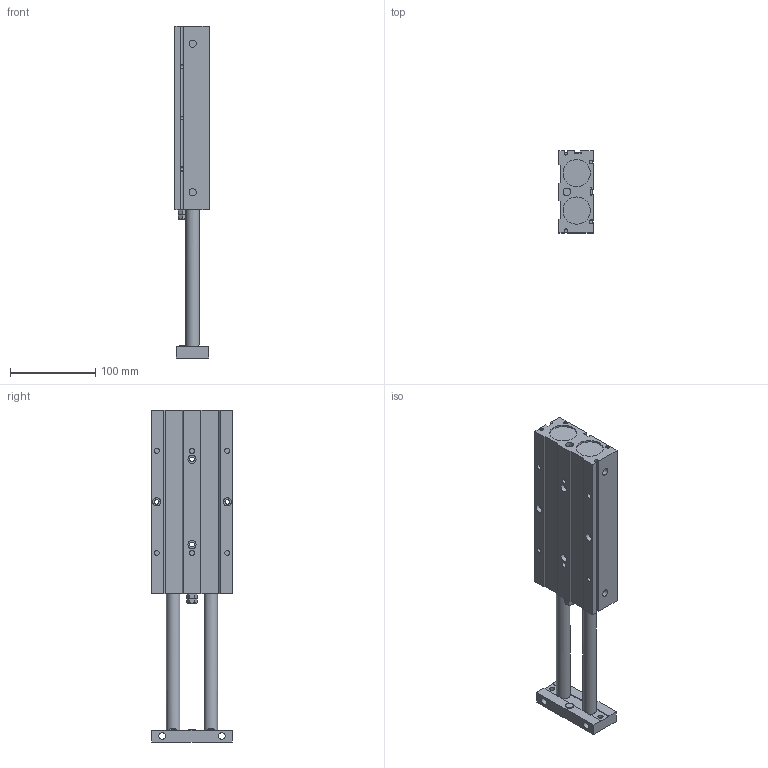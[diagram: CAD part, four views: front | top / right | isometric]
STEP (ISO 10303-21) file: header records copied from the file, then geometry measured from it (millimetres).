
FILE_DESCRIPTION((''),'2;1');
FILE_NAME('I:\3D電子目錄\氣缸\TD\TD32\TD32\TD32x150.stp','2007-08-06T10:23:39',('Administrator'),(''),'Autodesk Inventor 2008','Autodesk Inventor 2008','');
FILE_SCHEMA(('AUTOMOTIVE_DESIGN { 1 0 10303 214 1 1 1 1 }'));
Length unit declared in the file: millimetre
Products named in the file (1): TD32X150
Bounding box: 40.5 x 96 x 390 mm (x, y, z)
Volume: 893350.6 mm3; surface area: 115396.7 mm2
Topology: 1 solids, 3 shells, 186 faces, 458 edges, 304 vertices
Faces by surface type: plane 131, cylinder 42, cone 7, bspline 4, torus 2
Full cylindrical faces by diameter (mm): 5.5 x4, 6 x8, 8 x2, 8.5 x2, 9 x2, 9.5 x8, 12 x2, 13 x2, 14 x2, 16 x2, 32 x4
Entity records: 6063 total; most frequent: CARTESIAN_POINT 1776, DIRECTION 851, ORIENTED_EDGE 802, EDGE_CURVE 401, EDGE_LOOP 297, AXIS2_PLACEMENT_3D 295, VERTEX_POINT 294, VECTOR 261
